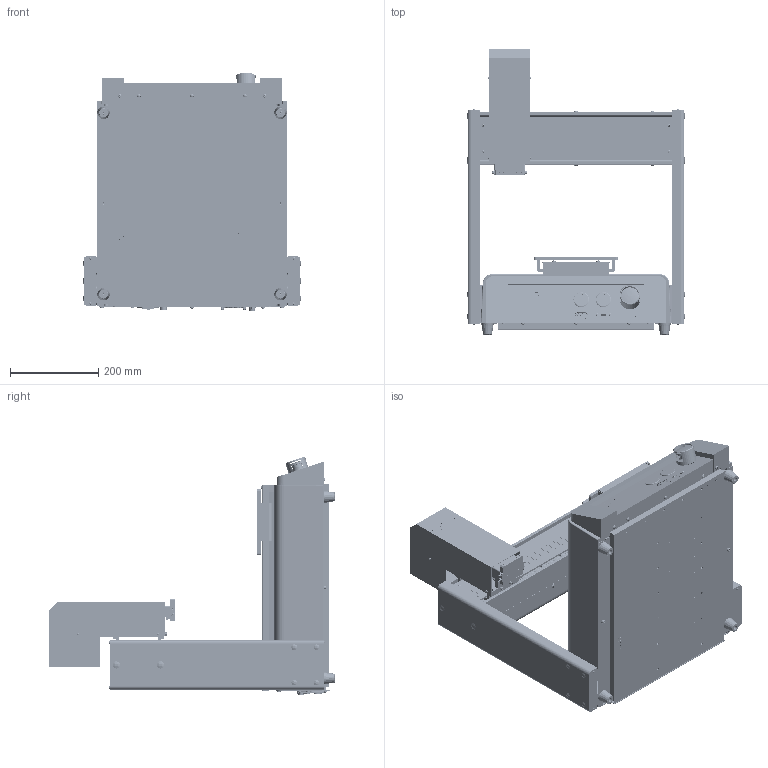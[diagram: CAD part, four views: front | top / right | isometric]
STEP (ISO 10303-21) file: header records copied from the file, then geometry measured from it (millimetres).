
FILE_DESCRIPTION(('FreeCAD Model'),'2;1');
FILE_NAME('C:/Users/martin.stroffek/Desktop/robots/E/NORDSONEFD-7361346 ROBOT E3TP 3 AXIS 300X300X100MM.STEP','2020-02-01T17:13:41',('Author'),(''), 'Open CASCADE STEP processor 7.2','FreeCAD','Unknown');
FILE_SCHEMA(('AUTOMOTIVE_DESIGN { 1 0 10303 214 1 1 1 1 }'));
Length unit declared in the file: millimetre
Products named in the file (5): NORDSONEFD_7361346_ROBOT_E3TP_3_AXIS_300X300X100MM; NORDSONEFD-7361346_ROBOT_E3TP_3_AXIS_300X300X100MM_E3-Base; NORDSONEFD-7361346_ROBOT_E3TP_3_AXIS_300X300X100MM_E3-Fixture_Plate; NORDSONEFD-7361346_ROBOT_E3TP_3_AXIS_300X300X100MM_E3-X_carriage; NORDSONEFD-7361346_ROBOT_E3TP_3_AXIS_300X300X100MM_E3-Z_head
Assembly tree (4 placements, depth 2):
  NORDSONEFD_7361346_ROBOT_E3TP_3_AXIS_300X300X100MM
    NORDSONEFD-7361346_ROBOT_E3TP_3_AXIS_300X300X100MM_E3-Base
    NORDSONEFD-7361346_ROBOT_E3TP_3_AXIS_300X300X100MM_E3-Fixture_Plate
    NORDSONEFD-7361346_ROBOT_E3TP_3_AXIS_300X300X100MM_E3-X_carriage
    NORDSONEFD-7361346_ROBOT_E3TP_3_AXIS_300X300X100MM_E3-Z_head
Bounding box: 492.46 x 644.25 x 538.64 mm (x, y, z)
Volume: 8596340.6 mm3; surface area: 3438953.7 mm2
Topology: 4 solids, 4 shells, 9454 faces, 25482 edges, 16490 vertices
Faces by surface type: plane 4523, cylinder 2185, bspline 1667, cone 1013, sphere 36, torus 16, revolution 14
Entity records: 889031 total; most frequent: CARTESIAN_POINT 357286, DIRECTION 76116, ORIENTED_EDGE 50352, PCURVE 50352, DEFINITIONAL_REPRESENTATION 50352, LINE 45541, VECTOR 45541, EDGE_CURVE 25176
